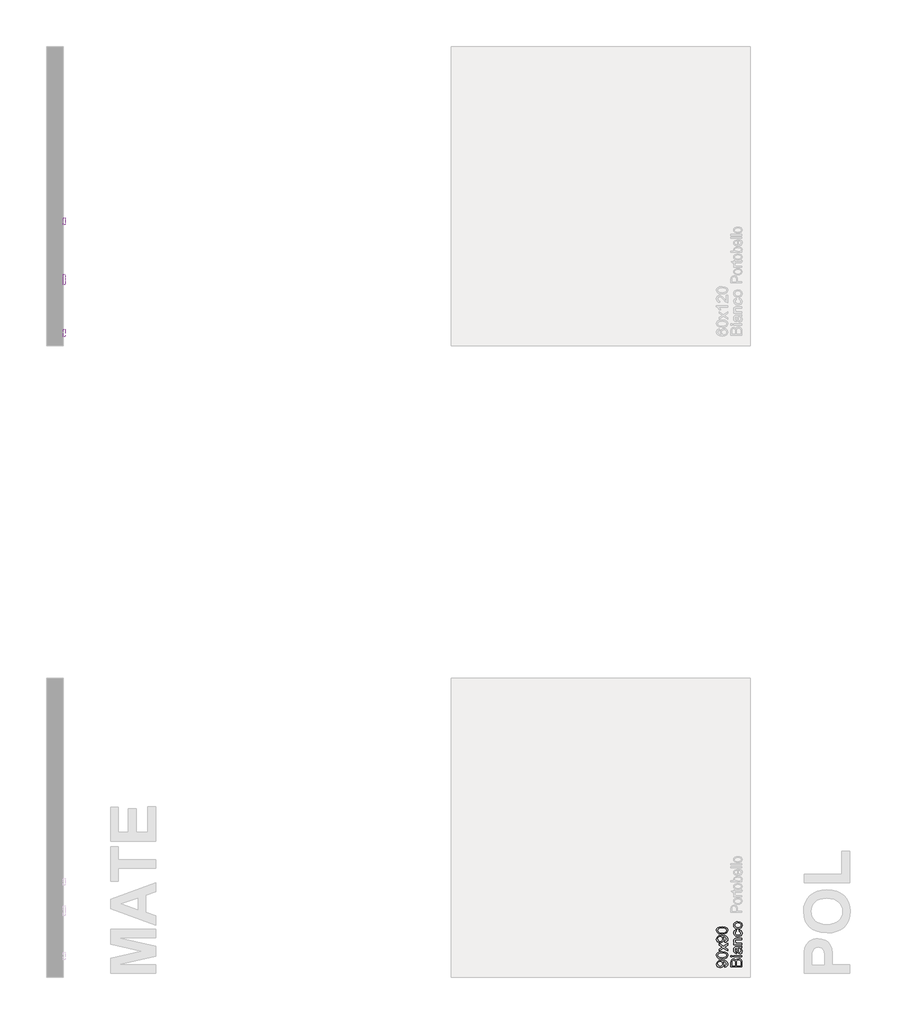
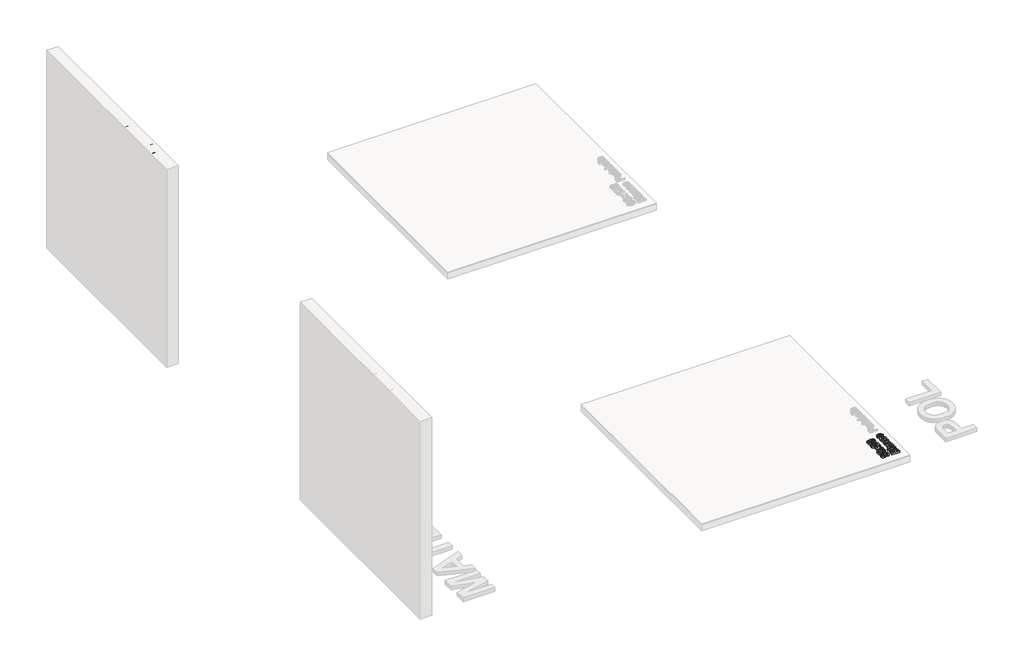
# One storey, part 7 of 14: 5 proxies.
"""IFC4 building model written with IfcOpenShell, lengths in millimetres."""

from ifc_helpers import new_model, si_unit, frame, origin, place, context, project, spatial, polyline, outline, extrude, element, save

model = new_model("IFC4")

# Units and contexts
model_context = context("Model", 3, world=origin())
ifc_project = project(units=[si_unit("LENGTHUNIT", "METRE", prefix="MILLI")], contexts=[model_context])

# Site, building, storey
site = spatial("IfcSite", under=ifc_project)
building = spatial("IfcBuilding", under=site)
storey = spatial("IfcBuildingStorey", under=building, Name="PORTOBELLO - SHOWROOM", Elevation=0.0)

# Proxies
placement = place(None, origin())
element("IfcBuildingElementProxy", 1, Name="10mm Arial", ObjectType="10mm Arial", at=placement, inside=storey, context=model_context, shape_type="SweptSolid", body=[
    extrude(outline(polyline([(-10552.2181326, 5529.8621307), (-10652.6744428, 5529.8621307), (-10652.6744428, 5568.1954346), (-10649.7191241, 5586.9696791), (-10640.6324388, 5598.0551899), (-10627.7810945, 5602.0651036), (-10616.0456588, 5598.692852), (-10607.1551773, 5588.5025207), (-10597.7864491, 5600.8756185), (-10582.1637271, 5605.2043633), (-10568.6624578, 5602.2490446), (-10559.048475, 5594.9281929), (-10553.947178, 5584.0020977), (-10552.2181326, 5567.901129), (-10552.2181326, 5529.8621307)]), holes=[polyline([(-10611.8640668, 5542.4191695), (-10611.8640668, 5565.3504805), (-10612.9431873, 5578.7413851), (-10617.5907632, 5586.7980008), (-10625.7700062, 5589.5080648), (-10633.961512, 5586.9819418), (-10638.8052916, 5579.7469292), (-10640.117404, 5563.6091724), (-10640.117404, 5542.4191695), (-10611.8640668, 5542.4191695)]), polyline([(-10564.7751714, 5542.4191695), (-10564.7751714, 5568.1709091), (-10565.2656807, 5577.4905863), (-10568.0002702, 5585.3755238), (-10573.5798138, 5590.5994481), (-10582.0410997, 5592.6473245), (-10591.8022353, 5590.2438288), (-10597.6270336, 5582.4569933), (-10599.307028, 5566.9446358), (-10599.307028, 5542.4191695), (-10564.7751714, 5542.4191695)])]), frame((0.0, 0.0, 18.0), z_axis=(0.0, 0.0, 1.0), x_axis=(1.0, 0.0, 0.0)), (0.0, 0.0, 1.0), 20.0),
    extrude(outline(polyline([(-10640.117404, 5620.9006618), (-10652.6744428, 5620.9006618), (-10652.6744428, 5633.4577005), (-10640.117404, 5633.4577005), (-10640.117404, 5620.9006618)])), frame((0.0, 0.0, 18.0), z_axis=(0.0, 0.0, 1.0), x_axis=(1.0, 0.0, 0.0)), (0.0, 0.0, 1.0), 20.0),
    extrude(outline(polyline([(-10552.2181326, 5620.9006618), (-10625.9907354, 5620.9006618), (-10625.9907354, 5633.4577005), (-10552.2181326, 5633.4577005), (-10552.2181326, 5620.9006618)])), frame((0.0, 0.0, 18.0), z_axis=(0.0, 0.0, 1.0), x_axis=(1.0, 0.0, 0.0)), (0.0, 0.0, 1.0), 20.0),
    extrude(outline(polyline([(-10561.6359117, 5699.3821541), (-10553.1255749, 5687.20526), (-10550.6485028, 5673.7530417), (-10552.1384249, 5663.2592078), (-10556.6081911, 5655.5183575), (-10563.3956139, 5650.7450886), (-10571.8385057, 5649.153999), (-10581.7713196, 5651.5574947), (-10588.9818067, 5657.8728023), (-10593.102085, 5666.665182), (-10594.990546, 5677.5299636), (-10599.307028, 5699.3085777), (-10602.1029312, 5699.3821541), (-10611.3735575, 5695.9240633), (-10615.0033265, 5682.0426494), (-10612.5875681, 5669.3384578), (-10604.0159176, 5663.2806676), (-10605.5855474, 5650.7236288), (-10617.8482806, 5656.1560196), (-10625.0342422, 5667.0943776), (-10627.5603653, 5683.6613301), (-10625.3285478, 5698.879382), (-10619.7244788, 5707.475558), (-10611.2018792, 5711.3260562), (-10600.2144703, 5711.9391928), (-10584.5917482, 5711.9391928), (-10562.7763459, 5712.576855), (-10552.2181326, 5715.0784525), (-10552.2181326, 5702.5214138), (-10561.6359117, 5699.3821541)]), holes=[polyline([(-10586.7499893, 5699.3821541), (-10582.899491, 5679.1241189), (-10580.8638773, 5668.3206509), (-10577.5529394, 5663.4278204), (-10572.7214225, 5661.7110378), (-10565.9278683, 5665.4511714), (-10563.2055416, 5676.4263176), (-10566.2099112, 5689.1305091), (-10573.481712, 5697.3220149), (-10583.1937966, 5699.3085777), (-10586.7499893, 5699.3821541)])]), frame((0.0, 0.0, 18.0), z_axis=(0.0, 0.0, 1.0), x_axis=(1.0, 0.0, 0.0)), (0.0, 0.0, 1.0), 20.0),
    extrude(outline(polyline([(-10552.2181326, 5729.2051211), (-10625.9907354, 5729.2051211), (-10625.9907354, 5741.7621599), (-10615.6900395, 5741.7621599), (-10624.5927838, 5751.36388), (-10627.5603653, 5764.4727418), (-10625.1691323, 5776.3308047), (-10618.8906129, 5784.4242086), (-10609.6567748, 5788.1888677), (-10597.516669, 5788.8510553), (-10552.2181326, 5788.8510553), (-10552.2181326, 5776.2940165), (-10595.8244118, 5776.2940165), (-10606.9344481, 5774.847014), (-10612.8082973, 5769.7334543), (-10615.0033265, 5761.1127529), (-10610.0737078, 5747.4888563), (-10602.9306657, 5743.193834), (-10591.3607769, 5741.7621599), (-10552.2181326, 5741.7621599), (-10552.2181326, 5729.2051211)])), frame((0.0, 0.0, 18.0), z_axis=(0.0, 0.0, 1.0), x_axis=(1.0, 0.0, 0.0)), (0.0, 0.0, 1.0), 20.0),
    extrude(outline(polyline([(-10578.90184, 5853.205879), (-10577.3322102, 5865.7629178), (-10566.1639259, 5862.2619074), (-10557.7240998, 5855.6829511), (-10552.4174021, 5846.6453167), (-10550.6485028, 5835.7682724), (-10553.1163779, 5822.4110903), (-10560.520003, 5811.9663073), (-10572.5344158, 5805.2248698), (-10588.8346539, 5802.9777239), (-10609.693563, 5806.8159594), (-10623.0967304, 5818.5146068), (-10627.5603653, 5835.5965942), (-10626.0275236, 5846.206924), (-10621.4289987, 5854.6896697), (-10614.0100451, 5860.775051), (-10604.0159176, 5864.1932879), (-10602.4462877, 5851.6362491), (-10611.8518041, 5845.8114509), (-10615.0033265, 5835.694696), (-10613.4520907, 5827.5798323), (-10608.7983835, 5821.1388317), (-10600.7908187, 5816.9357799), (-10589.1780104, 5815.5347627), (-10577.4088523, 5816.9051231), (-10569.3736964, 5821.0162044), (-10564.7475803, 5827.340709), (-10563.2055416, 5835.3513395), (-10567.0560398, 5847.184877), (-10578.90184, 5853.205879)])), frame((0.0, 0.0, 18.0), z_axis=(0.0, 0.0, 1.0), x_axis=(1.0, 0.0, 0.0)), (0.0, 0.0, 1.0), 20.0),
    extrude(outline(polyline([(-10589.104434, 5873.611067), (-10606.8915285, 5876.3272624), (-10619.393385, 5884.4758486), (-10625.5186202, 5894.5435525), (-10627.5603653, 5906.5978192), (-10625.0740961, 5919.7894544), (-10617.6152887, 5930.3262079), (-10605.7725541, 5937.2331924), (-10590.1345036, 5939.5355205), (-10567.7918038, 5935.4642931), (-10555.1489259, 5923.6062301), (-10550.6485028, 5906.5978192), (-10553.1255749, 5893.2467685), (-10560.5567912, 5882.7222777), (-10572.6478461, 5875.8888697), (-10589.104434, 5873.611067)]), holes=[polyline([(-10589.1289595, 5886.1681058), (-10577.7644715, 5887.6212396), (-10569.668002, 5891.9806413), (-10564.8211567, 5898.5412035), (-10563.2055416, 5906.5978192), (-10564.8303537, 5914.6176467), (-10569.7047902, 5921.1659462), (-10577.9085586, 5925.5253479), (-10589.521367, 5926.9784818), (-10600.5547611, 5925.5161508), (-10608.5408661, 5921.129158), (-10613.3877114, 5914.5716615), (-10615.0033265, 5906.5978192), (-10613.3938428, 5898.5412035), (-10608.5653916, 5891.9806413), (-10600.4873161, 5887.6212396), (-10589.1289595, 5886.1681058)])]), frame((0.0, 0.0, 18.0), z_axis=(0.0, 0.0, 1.0), x_axis=(1.0, 0.0, 0.0)), (0.0, 0.0, 1.0), 20.0),
])
element("IfcBuildingElementProxy", 2, Name="10mm Arial", ObjectType="10mm Arial", at=placement, inside=storey, context=model_context, shape_type="SweptSolid", body=[
    extrude(outline(polyline([(-10707.3322102, 5526.722871), (-10708.90184, 5539.2799098), (-10696.9211497, 5544.920767), (-10693.2055416, 5555.6138704), (-10695.5967745, 5565.7796762), (-10701.9856585, 5572.6713322), (-10712.899491, 5576.7793478), (-10727.4676181, 5578.5942323), (-10729.9201647, 5578.5206559), (-10720.4042837, 5568.4774775), (-10716.7499893, 5554.7064281), (-10718.9818067, 5543.256101), (-10725.677259, 5533.7248916), (-10736.0208744, 5527.2961538), (-10749.1971812, 5525.1532412), (-10762.8088151, 5527.400387), (-10773.4773929, 5534.1418246), (-10780.3751803, 5544.2677765), (-10782.6744428, 5556.6684654), (-10777.425993, 5574.5597931), (-10762.4654585, 5586.8715772), (-10734.3592741, 5591.0776947), (-10703.8618567, 5586.8838399), (-10693.8707948, 5581.6691127), (-10686.5836657, 5574.4126403), (-10682.1322935, 5565.4271226), (-10680.6485028, 5555.0252592), (-10682.399008, 5544.2892363), (-10687.6505234, 5535.7237172), (-10696.0719555, 5529.733372), (-10707.3322102, 5526.722871)]), holes=[polyline([(-10749.4914868, 5578.5206559), (-10758.0018237, 5577.1656239), (-10764.5501232, 5573.1005279), (-10768.7255838, 5566.7913516), (-10770.117404, 5558.7040791), (-10768.6182849, 5550.3163696), (-10764.1209275, 5543.5963918), (-10757.2384685, 5539.1818079), (-10748.5840446, 5537.7102799), (-10740.8248002, 5539.1021001), (-10734.6658424, 5543.2775608), (-10730.6467316, 5549.8319917), (-10729.307028, 5558.3607226), (-10734.6658424, 5572.8430105), (-10741.0516607, 5577.1012446), (-10749.4914868, 5578.5206559)])]), frame((0.0, 0.0, 18.0), z_axis=(0.0, 0.0, 1.0), x_axis=(1.0, 0.0, 0.0)), (0.0, 0.0, 1.0), 20.0),
    extrude(outline(polyline([(-10731.6369473, 5602.0651036), (-10760.5402094, 5605.7561863), (-10777.2052638, 5616.7190698), (-10782.6744428, 5635.0273304), (-10779.4370812, 5649.6935593), (-10770.1051413, 5659.8225769), (-10755.2427087, 5665.7086888), (-10731.6369473, 5667.9895571), (-10702.8563126, 5664.3352627), (-10686.15447, 5653.4091674), (-10682.0249946, 5645.1778078), (-10680.6485028, 5635.0273304), (-10683.0397358, 5621.9797823), (-10690.2134347, 5612.0714939), (-10707.2034515, 5604.5667012), (-10731.6369473, 5602.0651036)]), holes=[polyline([(-10731.6614728, 5614.6221424), (-10711.9092753, 5616.0936704), (-10700.4773423, 5620.5082543), (-10695.0234918, 5627.0810793), (-10693.2055416, 5635.0273304), (-10695.0296231, 5642.9735815), (-10700.5018678, 5649.5464065), (-10711.9399322, 5653.9609904), (-10731.6614728, 5655.4325184), (-10750.9691462, 5654.0100413), (-10762.489984, 5649.7426102), (-10768.210549, 5643.1820479), (-10770.117404, 5634.8801776), (-10768.4374096, 5627.0197656), (-10763.3974263, 5620.704458), (-10751.1592185, 5616.1427213), (-10731.6614728, 5614.6221424)])]), frame((0.0, 0.0, 18.0), z_axis=(0.0, 0.0, 1.0), x_axis=(1.0, 0.0, 0.0)), (0.0, 0.0, 1.0), 20.0),
    extrude(outline(polyline([(-10682.2181326, 5674.2680765), (-10719.3251632, 5701.0989367), (-10755.9907354, 5675.8377064), (-10755.9907354, 5690.8963427), (-10738.3078742, 5703.0854995), (-10729.9937411, 5708.7999331), (-10736.8118207, 5713.7540773), (-10755.9907354, 5727.6354913), (-10755.9907354, 5742.7431786), (-10719.3006378, 5716.206624), (-10682.2181326, 5741.7621599), (-10682.2181326, 5726.6789981), (-10704.536307, 5711.2770052), (-10708.6320599, 5708.4811021), (-10682.2181326, 5689.3757638), (-10682.2181326, 5674.2680765)])), frame((0.0, 0.0, 18.0), z_axis=(0.0, 0.0, 1.0), x_axis=(1.0, 0.0, 0.0)), (0.0, 0.0, 1.0), 20.0),
    extrude(outline(polyline([(-10707.3322102, 5751.179939), (-10708.90184, 5763.7369778), (-10696.9211497, 5769.377835), (-10693.2055416, 5780.0709383), (-10695.5967745, 5790.2367441), (-10701.9856585, 5797.1284002), (-10712.899491, 5801.2364158), (-10727.4676181, 5803.0513003), (-10729.9201647, 5802.9777239), (-10720.4042837, 5792.9345454), (-10716.7499893, 5779.1634961), (-10718.9818067, 5767.713169), (-10725.677259, 5758.1819596), (-10736.0208744, 5751.7532218), (-10749.1971812, 5749.6103091), (-10762.8088151, 5751.857455), (-10773.4773929, 5758.5988926), (-10780.3751803, 5768.7248445), (-10782.6744428, 5781.1255334), (-10777.425993, 5799.0168611), (-10762.4654585, 5811.3286452), (-10734.3592741, 5815.5347627), (-10703.8618567, 5811.3409079), (-10693.8707948, 5806.1261807), (-10686.5836657, 5798.8697083), (-10682.1322935, 5789.8841906), (-10680.6485028, 5779.4823272), (-10682.399008, 5768.7463043), (-10687.6505234, 5760.1807851), (-10696.0719555, 5754.19044), (-10707.3322102, 5751.179939)]), holes=[polyline([(-10749.4914868, 5802.9777239), (-10758.0018237, 5801.6226919), (-10764.5501232, 5797.5575959), (-10768.7255838, 5791.2484196), (-10770.117404, 5783.1611471), (-10768.6182849, 5774.7734376), (-10764.1209275, 5768.0534598), (-10757.2384685, 5763.6388759), (-10748.5840446, 5762.1673479), (-10740.8248002, 5763.5591681), (-10734.6658424, 5767.7346288), (-10730.6467316, 5774.2890597), (-10729.307028, 5782.8177906), (-10734.6658424, 5797.3000785), (-10741.0516607, 5801.5583125), (-10749.4914868, 5802.9777239)])]), frame((0.0, 0.0, 18.0), z_axis=(0.0, 0.0, 1.0), x_axis=(1.0, 0.0, 0.0)), (0.0, 0.0, 1.0), 20.0),
    extrude(outline(polyline([(-10731.6369473, 5826.5221716), (-10760.5402094, 5830.2132543), (-10777.2052638, 5841.1761377), (-10782.6744428, 5859.4843984), (-10779.4370812, 5874.1506272), (-10770.1051413, 5884.2796448), (-10755.2427087, 5890.1657568), (-10731.6369473, 5892.4466251), (-10702.8563126, 5888.7923307), (-10686.15447, 5877.8662354), (-10682.0249946, 5869.6348758), (-10680.6485028, 5859.4843984), (-10683.0397358, 5846.4368503), (-10690.2134347, 5836.5285619), (-10707.2034515, 5829.0237692), (-10731.6369473, 5826.5221716)]), holes=[polyline([(-10731.6614728, 5839.0792104), (-10711.9092753, 5840.5507384), (-10700.4773423, 5844.9653223), (-10695.0234918, 5851.5381473), (-10693.2055416, 5859.4843984), (-10695.0296231, 5867.4306495), (-10700.5018678, 5874.0034744), (-10711.9399322, 5878.4180584), (-10731.6614728, 5879.8895864), (-10750.9691462, 5878.4671093), (-10762.489984, 5874.1996782), (-10768.210549, 5867.6391159), (-10770.117404, 5859.3372456), (-10768.4374096, 5851.4768336), (-10763.3974263, 5845.161526), (-10751.1592185, 5840.5997893), (-10731.6614728, 5839.0792104)])]), frame((0.0, 0.0, 18.0), z_axis=(0.0, 0.0, 1.0), x_axis=(1.0, 0.0, 0.0)), (0.0, 0.0, 1.0), 20.0),
])
element("IfcBuildingElementProxy", 3, Name="10mm Arial", ObjectType="10mm Arial", at=placement, inside=storey, context=model_context, shape_type="SweptSolid", body=[
    extrude(outline(polyline([(11225.014652, 2518.4745677), (11225.014652, 2618.9308778), (11263.3479558, 2618.9308778), (11282.1222003, 2615.9755591), (11293.2077111, 2606.8888738), (11297.2176249, 2594.0375295), (11293.8453733, 2582.3020938), (11283.655042, 2573.4116123), (11296.0281398, 2564.0428841), (11300.3568846, 2548.4201621), (11297.4015659, 2534.9188928), (11290.0807142, 2525.30491), (11279.1546189, 2520.203613), (11263.0536503, 2518.4745677), (11225.014652, 2518.4745677)]), holes=[polyline([(11237.5716907, 2578.1205018), (11260.5030018, 2578.1205018), (11273.8939064, 2579.1996223), (11281.9505221, 2583.8471982), (11284.6605861, 2592.0264412), (11282.1344631, 2600.217947), (11274.8994505, 2605.0617266), (11258.7616936, 2606.373839), (11237.5716907, 2606.373839), (11237.5716907, 2578.1205018)]), polyline([(11237.5716907, 2531.0316064), (11263.3234304, 2531.0316064), (11272.6431076, 2531.5221158), (11280.528045, 2534.2567053), (11285.7519694, 2539.8362488), (11287.7998458, 2548.2975347), (11285.3963501, 2558.0586703), (11277.6095145, 2563.8834686), (11262.0971571, 2565.563463), (11237.5716907, 2565.563463), (11237.5716907, 2531.0316064)])]), frame((-16677.6869751, 0.0, 0.0), z_axis=(1.0, 0.0, 0.0), x_axis=(0.0, 1.0, 0.0)), (0.0, 0.0, 1.0), 20.0),
    extrude(outline(polyline([(-16657.6869751, 11328.6102218), (-16657.6869751, 11316.053183), (-16677.6869751, 11316.053183), (-16677.6869751, 11328.6102218), (-16657.6869751, 11328.6102218)])), frame((0.0, 0.0, 2606.373839), z_axis=(0.0, 0.0, 1.0), x_axis=(1.0, 0.0, 0.0)), (0.0, 0.0, 1.0), 12.5570388),
    extrude(outline(polyline([(-16657.6869751, 11328.6102218), (-16657.6869751, 11316.053183), (-16677.6869751, 11316.053183), (-16677.6869751, 11328.6102218), (-16657.6869751, 11328.6102218)])), frame((0.0, 0.0, 2518.4745677), z_axis=(0.0, 0.0, 1.0), x_axis=(1.0, 0.0, 0.0)), (0.0, 0.0, 1.0), 73.7726028),
    extrude(outline(polyline([(11394.5346753, 2527.8923467), (11382.3577813, 2519.3820099), (11368.905563, 2516.9049378), (11358.4117291, 2518.3948599), (11350.6708788, 2522.8646261), (11345.8976099, 2529.6520489), (11344.3065203, 2538.0949407), (11346.710016, 2548.0277546), (11353.0253235, 2555.2382417), (11361.8177032, 2559.3585201), (11372.6824848, 2561.246981), (11394.4610989, 2565.563463), (11394.5346753, 2568.3593662), (11391.0765846, 2577.6299925), (11377.1951706, 2581.2597615), (11364.4909791, 2578.8440031), (11358.4331889, 2570.2723526), (11345.8761501, 2571.8419824), (11351.3085409, 2584.1047156), (11362.2468989, 2591.2906772), (11378.8138514, 2593.8168003), (11394.0319033, 2591.5849828), (11402.6280792, 2585.9809138), (11406.4785774, 2577.4583142), (11407.0917141, 2566.4709053), (11407.0917141, 2550.8481832), (11407.7293762, 2529.0327809), (11410.2309738, 2518.4745677), (11397.673935, 2518.4745677), (11394.5346753, 2527.8923467)]), holes=[polyline([(11394.5346753, 2553.0064243), (11374.2766401, 2549.1559261), (11363.4731722, 2547.1203124), (11358.5803417, 2543.8093744), (11356.863559, 2538.9778575), (11360.6036926, 2532.1843033), (11371.5788388, 2529.4619766), (11384.2830304, 2532.4663462), (11392.4745362, 2539.738147), (11394.4610989, 2549.4502317), (11394.5346753, 2553.0064243)])]), frame((-16677.6869751, 0.0, 0.0), z_axis=(1.0, 0.0, 0.0), x_axis=(0.0, 1.0, 0.0)), (0.0, 0.0, 1.0), 20.0),
    extrude(outline(polyline([(11424.3576424, 2518.4745677), (11424.3576424, 2592.2471704), (11436.9146812, 2592.2471704), (11436.9146812, 2581.9464746), (11446.5164012, 2590.8492188), (11459.625263, 2593.8168003), (11471.483326, 2591.4255673), (11479.5767299, 2585.1470479), (11483.341389, 2575.9132098), (11484.0035766, 2563.773104), (11484.0035766, 2518.4745677), (11471.4465378, 2518.4745677), (11471.4465378, 2562.0808468), (11469.9995353, 2573.1908831), (11464.8859755, 2579.0647323), (11456.2652741, 2581.2597615), (11442.6413776, 2576.3301428), (11438.3463553, 2569.1871007), (11436.9146812, 2557.6172119), (11436.9146812, 2518.4745677), (11424.3576424, 2518.4745677)])), frame((-16677.6869751, 0.0, 0.0), z_axis=(1.0, 0.0, 0.0), x_axis=(0.0, 1.0, 0.0)), (0.0, 0.0, 1.0), 20.0),
    extrude(outline(polyline([(11548.3584002, 2545.158275), (11560.915439, 2543.5886452), (11557.4144287, 2532.420361), (11550.8354723, 2523.9805349), (11541.797838, 2518.6738371), (11530.9207937, 2516.9049378), (11517.5636116, 2519.3728129), (11507.1188286, 2526.776438), (11500.377391, 2538.7908508), (11498.1302452, 2555.0910889), (11501.9684807, 2575.949998), (11513.6671281, 2589.3531654), (11530.7491154, 2593.8168003), (11541.3594453, 2592.2839586), (11549.842191, 2587.6854337), (11555.9275723, 2580.2664801), (11559.3458092, 2570.2723526), (11546.7887704, 2568.7027227), (11540.9639721, 2578.1082391), (11530.8472173, 2581.2597615), (11522.7323536, 2579.7085258), (11516.291353, 2575.0548185), (11512.0883012, 2567.0472538), (11510.6872839, 2555.4344454), (11512.0576444, 2543.6652873), (11516.1687257, 2535.6301314), (11522.4932303, 2531.0040153), (11530.5038607, 2529.4619766), (11542.3373983, 2533.3124748), (11548.3584002, 2545.158275)])), frame((-16677.6869751, 0.0, 0.0), z_axis=(1.0, 0.0, 0.0), x_axis=(0.0, 1.0, 0.0)), (0.0, 0.0, 1.0), 20.0),
    extrude(outline(polyline([(11568.7635882, 2555.360869), (11571.4797836, 2573.1479635), (11579.6283698, 2585.64982), (11589.6960738, 2591.7750552), (11601.7503405, 2593.8168003), (11614.9419757, 2591.3305311), (11625.4787292, 2583.8717237), (11632.3857136, 2572.0289891), (11634.6880418, 2556.3909386), (11630.6168144, 2534.0482388), (11618.7587514, 2521.4053609), (11601.7503405, 2516.9049378), (11588.3992897, 2519.3820099), (11577.874799, 2526.8132262), (11571.0413909, 2538.9042811), (11568.7635882, 2555.360869)]), holes=[polyline([(11581.320627, 2555.3853945), (11582.7737609, 2544.0209065), (11587.1331625, 2535.924437), (11593.6937248, 2531.0775917), (11601.7503405, 2529.4619766), (11609.770168, 2531.0867887), (11616.3184675, 2535.9612252), (11620.6778691, 2544.1649937), (11622.131003, 2555.777802), (11620.6686721, 2566.8111961), (11616.2816793, 2574.7973011), (11609.7241827, 2579.6441464), (11601.7503405, 2581.2597615), (11593.6937248, 2579.6502778), (11587.1331625, 2574.8218266), (11582.7737609, 2566.7437511), (11581.320627, 2555.3853945)])]), frame((-16677.6869751, 0.0, 0.0), z_axis=(1.0, 0.0, 0.0), x_axis=(0.0, 1.0, 0.0)), (0.0, 0.0, 1.0), 20.0),
    extrude(outline(polyline([(11765.0899463, 2530.5165716), (11780.6636175, 2520.0441975), (11777.2791031, 2510.8471476), (11756.604135, 2522.594846), (11732.201296, 2516.9049378), (11719.356083, 2518.5450784), (11707.749406, 2523.4655001), (11698.0281243, 2531.3565689), (11690.839097, 2541.9086508), (11686.3969219, 2554.5423316), (11684.9161969, 2568.6781973), (11690.8268342, 2595.6439475), (11697.9882704, 2606.3462479), (11707.6513042, 2614.1484119), (11719.2150615, 2618.9124837), (11732.0786686, 2620.5005077), (11745.0434433, 2618.8756955), (11756.6654486, 2614.0012591), (11766.313154, 2606.2021608), (11773.3550285, 2595.803363), (11779.0939876, 2569.4139613), (11775.6113714, 2547.4636689), (11765.0899463, 2530.5165716)]), holes=[polyline([(11735.6593867, 2547.2184142), (11754.7401995, 2537.6780078), (11763.5877615, 2550.627454), (11766.5369489, 2568.7762991), (11762.3676196, 2589.3899536), (11750.1662001, 2603.0751638), (11732.152245, 2607.9434689), (11718.4670348, 2605.4817252), (11707.3324731, 2598.0964942), (11699.938045, 2585.8245639), (11697.4732356, 2568.7027227), (11699.9104538, 2551.9487635), (11707.2221085, 2539.6032569), (11718.3229477, 2531.9972967), (11732.1277196, 2529.4619766), (11745.6412515, 2532.0371506), (11732.4220252, 2537.6044314), (11735.6593867, 2547.2184142)])]), frame((-16677.6869751, 0.0, 0.0), z_axis=(1.0, 0.0, 0.0), x_axis=(0.0, 1.0, 0.0)), (0.0, 0.0, 1.0), 20.0),
    extrude(outline(polyline([(11843.4488113, 2518.4745677), (11843.4488113, 2531.1542338), (11833.6140993, 2520.4672618), (11820.7872804, 2516.9049378), (11808.9782684, 2519.4065354), (11800.8358135, 2525.6850548), (11797.0956799, 2534.9311556), (11796.3599159, 2546.6052776), (11796.3599159, 2592.2471704), (11808.9169547, 2592.2471704), (11808.9169547, 2552.515915), (11809.6772442, 2539.7136215), (11814.6436511, 2532.1965661), (11824.0001165, 2529.4619766), (11834.4847534, 2532.2578797), (11841.4131976, 2539.873037), (11843.4488113, 2553.8648156), (11843.4488113, 2592.2471704), (11856.0058501, 2592.2471704), (11856.0058501, 2518.4745677), (11843.4488113, 2518.4745677)])), frame((-16677.6869751, 0.0, 0.0), z_axis=(1.0, 0.0, 0.0), x_axis=(0.0, 1.0, 0.0)), (0.0, 0.0, 1.0), 20.0),
    extrude(outline(polyline([(11924.9224105, 2540.4493855), (11937.2341946, 2538.8797557), (11932.7981509, 2529.602998), (11925.7194882, 2522.6684224), (11916.157622, 2518.345809), (11904.2719678, 2516.9049378), (11889.5382939, 2519.391207), (11878.2013971, 2526.8500144), (11870.9725159, 2538.7969822), (11868.5628888, 2554.7477324), (11870.9970414, 2571.2349771), (11878.299499, 2583.5651553), (11889.4831116, 2591.253889), (11903.5607293, 2593.8168003), (11917.1999543, 2591.2600204), (11928.0984584, 2583.5896808), (11935.2445662, 2571.2840281), (11937.6266021, 2554.8213088), (11937.5530257, 2551.4367944), (11881.1199276, 2551.4367944), (11883.2934971, 2542.0374095), (11888.3426775, 2535.1273593), (11895.6298066, 2530.8783223), (11904.5172225, 2529.4619766), (11916.8290066, 2532.0862015), (11924.9224105, 2540.4493855)]), holes=[polyline([(11881.1199276, 2563.9938332), (11925.0695633, 2563.9938332), (11920.0418427, 2575.3736496), (11912.720991, 2579.7882335), (11903.5116784, 2581.2597615), (11888.0483719, 2576.5631347), (11883.1831325, 2571.0724959), (11881.1199276, 2563.9938332)])]), frame((-16677.6869751, 0.0, 0.0), z_axis=(1.0, 0.0, 0.0), x_axis=(0.0, 1.0, 0.0)), (0.0, 0.0, 1.0), 20.0),
    extrude(outline(polyline([(11947.0443812, 2555.360869), (11949.7605766, 2573.1479635), (11957.9091627, 2585.64982), (11967.9768667, 2591.7750552), (11980.0311334, 2593.8168003), (11993.2227686, 2591.3305311), (12003.7595221, 2583.8717237), (12010.6665065, 2572.0289891), (12012.9688347, 2556.3909386), (12008.8976073, 2534.0482388), (11997.0395443, 2521.4053609), (11980.0311334, 2516.9049378), (11966.6800826, 2519.3820099), (11956.1555919, 2526.8132262), (11949.3221838, 2538.9042811), (11947.0443812, 2555.360869)]), holes=[polyline([(11959.6014199, 2555.3853945), (11961.0545538, 2544.0209065), (11965.4139554, 2535.924437), (11971.9745177, 2531.0775917), (11980.0311334, 2529.4619766), (11988.0509609, 2531.0867887), (11994.5992604, 2535.9612252), (11998.958662, 2544.1649937), (12000.4117959, 2555.777802), (11998.949465, 2566.8111961), (11994.5624722, 2574.7973011), (11988.0049756, 2579.6441464), (11980.0311334, 2581.2597615), (11971.9745177, 2579.6502778), (11965.4139554, 2574.8218266), (11961.0545538, 2566.7437511), (11959.6014199, 2555.3853945)])]), frame((-16677.6869751, 0.0, 0.0), z_axis=(1.0, 0.0, 0.0), x_axis=(0.0, 1.0, 0.0)), (0.0, 0.0, 1.0), 20.0),
    extrude(outline(polyline([(12027.0955033, 2490.2212304), (12027.0955033, 2592.2471704), (12039.6525421, 2592.2471704), (12039.6525421, 2579.9353863), (12048.3345572, 2590.3464468), (12060.0577301, 2593.8168003), (12075.9747577, 2588.9607579), (12086.3735555, 2575.2755477), (12089.8806971, 2555.9249548), (12085.9198343, 2535.5810804), (12074.4173906, 2521.724192), (12058.5371512, 2516.9049378), (12047.6110559, 2520.1300366), (12039.6525421, 2528.2847542), (12039.6525421, 2490.2212304), (12027.0955033, 2490.2212304)]), holes=[polyline([(12039.6525421, 2554.7722579), (12041.0106398, 2543.5150688), (12045.0849329, 2535.6423941), (12051.0967378, 2531.007081), (12058.267371, 2529.4619766), (12065.5545002, 2531.0622633), (12071.7195893, 2535.8631233), (12075.9226411, 2544.0239722), (12077.3236584, 2555.7042256), (12075.9563636, 2566.900101), (12071.8544794, 2574.8831403), (12065.8518715, 2579.6656062), (12058.7824058, 2581.2597615), (12051.685349, 2579.5644386), (12045.4528149, 2574.4784701), (12041.1026103, 2566.1612713), (12039.6525421, 2554.7722579)])]), frame((-16677.6869751, 0.0, 0.0), z_axis=(1.0, 0.0, 0.0), x_axis=(0.0, 1.0, 0.0)), (0.0, 0.0, 1.0), 20.0),
    extrude(outline(polyline([(12099.2984762, 2540.4493855), (12111.855515, 2542.0190154), (12117.6680505, 2532.6993381), (12130.9853787, 2529.4619766), (12143.7876722, 2532.429558), (12147.9570015, 2539.3947905), (12143.7631467, 2545.0356477), (12130.8382259, 2548.6163658), (12111.9290914, 2554.7599951), (12103.676272, 2561.933694), (12100.8681061, 2572.0627116), (12103.124449, 2581.419177), (12109.280341, 2588.5683505), (12117.2633803, 2592.2839586), (12128.0668482, 2593.8168003), (12143.3462138, 2591.3519909), (12153.0582985, 2584.6810641), (12157.3747805, 2573.4116123), (12144.8177418, 2571.8419824), (12140.0965895, 2578.7704267), (12129.0478669, 2581.2597615), (12117.0303884, 2578.8807913), (12113.4251448, 2573.3380359), (12114.9211983, 2569.6837414), (12119.6055624, 2566.9123637), (12130.421293, 2564.2390879), (12148.852181, 2558.3284505), (12157.4115687, 2551.6329982), (12160.5140402, 2540.7191656), (12156.8720085, 2528.7016871), (12146.3628461, 2519.9828838), (12130.8137005, 2516.9049378), (12118.1524285, 2518.3887285), (12108.912459, 2522.8401007), (12102.7443042, 2530.2100033), (12099.2984762, 2540.4493855)])), frame((-16677.6869751, 0.0, 0.0), z_axis=(1.0, 0.0, 0.0), x_axis=(0.0, 1.0, 0.0)), (0.0, 0.0, 1.0), 20.0),
])
element("IfcBuildingElementProxy", 4, Name="10mm Arial", ObjectType="10mm Arial", at=placement, inside=storey, context=model_context, shape_type="SweptSolid", body=[
    extrude(outline(polyline([(11261.1161384, 2393.4745677), (11261.1161384, 2417.0190154), (11215.5968729, 2417.0190154), (11215.5968729, 2429.5760541), (11264.2553981, 2492.361248), (11273.6731772, 2492.361248), (11273.6731772, 2429.5760541), (11286.2302159, 2429.5760541), (11286.2302159, 2417.0190154), (11273.6731772, 2417.0190154), (11273.6731772, 2393.4745677), (11261.1161384, 2393.4745677)]), holes=[polyline([(11261.1161384, 2429.5760541), (11261.1161384, 2468.3753419), (11231.0479167, 2429.5760541), (11261.1161384, 2429.5760541)])]), frame((-16677.6869751, 0.0, 0.0), z_axis=(1.0, 0.0, 0.0), x_axis=(0.0, 1.0, 0.0)), (0.0, 0.0, 1.0), 20.0),
    extrude(outline(polyline([(11297.2176249, 2420.158275), (11309.7746636, 2421.7279049), (11316.102234, 2408.7907214), (11329.2233585, 2404.4619766), (11338.2242046, 2405.9672271), (11344.9687078, 2410.4829786), (11349.1809567, 2417.4880649), (11350.5850396, 2426.4613199), (11345.3243271, 2441.3728034), (11338.7177796, 2445.4746877), (11329.4195622, 2446.8419824), (11318.3953651, 2444.6592159), (11311.3442935, 2438.9938332), (11298.7872547, 2440.563463), (11309.7746636, 2492.361248), (11358.4331889, 2492.361248), (11358.4331889, 2479.8042092), (11319.9282067, 2479.8042092), (11314.5326041, 2452.1394832), (11323.5027934, 2457.5841367), (11332.9021784, 2459.3990212), (11344.6376141, 2457.1488097), (11354.3864869, 2450.3981751), (11360.9531805, 2440.1097419), (11363.1420784, 2427.2461348), (11361.1739097, 2414.6890961), (11355.2694037, 2403.9469418), (11343.9631637, 2394.9154388), (11329.1743075, 2391.9049378), (11316.8410636, 2393.839384), (11307.0155487, 2399.6427224), (11300.2802425, 2408.6405029), (11297.2176249, 2420.158275)])), frame((-16677.6869751, 0.0, 0.0), z_axis=(1.0, 0.0, 0.0), x_axis=(0.0, 1.0, 0.0)), (0.0, 0.0, 1.0), 20.0),
    extrude(outline(polyline([(11369.4205978, 2393.4745677), (11396.251458, 2430.5815982), (11370.9902276, 2467.2471704), (11386.048864, 2467.2471704), (11398.2380207, 2449.5643092), (11403.9524544, 2441.2501761), (11408.9065986, 2448.0682557), (11422.7880126, 2467.2471704), (11437.8956998, 2467.2471704), (11411.3591452, 2430.5570728), (11436.9146812, 2393.4745677), (11421.8315194, 2393.4745677), (11406.4295265, 2415.792742), (11403.6336233, 2419.8884949), (11384.5282851, 2393.4745677), (11369.4205978, 2393.4745677)])), frame((-16677.6869751, 0.0, 0.0), z_axis=(1.0, 0.0, 0.0), x_axis=(0.0, 1.0, 0.0)), (0.0, 0.0, 1.0), 20.0),
    extrude(outline(polyline([(11491.8517258, 2393.4745677), (11479.294687, 2393.4745677), (11479.294687, 2471.7598562), (11467.3998358, 2463.2863076), (11454.1806095, 2456.9464746), (11454.1806095, 2468.8168003), (11472.586972, 2480.5644987), (11483.7583219, 2493.9308778), (11491.8517258, 2493.9308778), (11491.8517258, 2393.4745677)])), frame((-16677.6869751, 0.0, 0.0), z_axis=(1.0, 0.0, 0.0), x_axis=(0.0, 1.0, 0.0)), (0.0, 0.0, 1.0), 20.0),
    extrude(outline(polyline([(11586.0295166, 2406.0316064), (11586.0295166, 2393.4745677), (11520.105063, 2393.4745677), (11521.4539637, 2402.1320573), (11529.0936464, 2415.4616482), (11544.8267331, 2430.0175125), (11566.4949826, 2450.9377353), (11571.9028479, 2465.1625058), (11566.7892882, 2476.6772122), (11553.4351718, 2481.373839), (11539.5169696, 2476.7875768), (11534.2317316, 2464.1079107), (11521.6746929, 2465.6775406), (11524.7189164, 2477.8237778), (11531.3009384, 2486.6958652), (11541.0774024, 2492.1221247), (11553.7049519, 2493.9308778), (11566.4244719, 2491.9197896), (11576.1825418, 2485.8865249), (11582.3905505, 2476.873416), (11584.4598867, 2465.9227952), (11582.2280693, 2454.0156813), (11574.8091157, 2441.7038972), (11556.8196861, 2424.4992826), (11542.3741865, 2412.4204904), (11536.7088037, 2406.0316064), (11586.0295166, 2406.0316064)])), frame((-16677.6869751, 0.0, 0.0), z_axis=(1.0, 0.0, 0.0), x_axis=(0.0, 1.0, 0.0)), (0.0, 0.0, 1.0), 20.0),
    extrude(outline(polyline([(11598.5865553, 2442.8933823), (11602.277638, 2471.7966444), (11613.2405215, 2488.4616988), (11631.5487821, 2493.9308778), (11646.215011, 2490.6935163), (11656.3440286, 2481.3615763), (11662.2301405, 2466.4991437), (11664.5110089, 2442.8933823), (11660.8567144, 2414.1127476), (11649.9306191, 2397.410905), (11641.6992595, 2393.2814296), (11631.5487821, 2391.9049378), (11618.501234, 2394.2961708), (11608.5929456, 2401.4698697), (11601.0881529, 2418.4598865), (11598.5865553, 2442.8933823)]), holes=[polyline([(11611.1435941, 2442.9179078), (11612.6151221, 2423.1657104), (11617.029706, 2411.7337774), (11623.602531, 2406.2799268), (11631.5487821, 2404.4619766), (11639.4950332, 2406.2860581), (11646.0678582, 2411.7583028), (11650.4824421, 2423.1963672), (11651.9539701, 2442.9179078), (11650.531493, 2462.2255812), (11646.2640619, 2473.746419), (11639.7034996, 2479.466984), (11631.4016293, 2481.373839), (11623.5412173, 2479.6938446), (11617.2259097, 2474.6538613), (11612.664173, 2462.4156536), (11611.1435941, 2442.9179078)])]), frame((-16677.6869751, 0.0, 0.0), z_axis=(1.0, 0.0, 0.0), x_axis=(0.0, 1.0, 0.0)), (0.0, 0.0, 1.0), 20.0),
])
element("IfcBuildingElementProxy", 5, Name="10mm Arial Narrow", ObjectType="10mm Arial Narrow", at=placement, inside=storey, context=model_context, shape_type="SweptSolid", body=[
    extrude(outline(polyline([(12226.9202468, 2518.4745677), (12226.9202468, 2615.7916181), (12257.1601468, 2615.7916181), (12272.9054962, 2613.9767336), (12283.991007, 2604.8164719), (12288.1358108, 2588.3721467), (12286.4098311, 2576.7041561), (12281.231892, 2567.402873), (12271.8171786, 2561.314426), (12257.380876, 2559.2849437), (12236.3380259, 2559.2849437), (12236.3380259, 2518.4745677), (12226.9202468, 2518.4745677)]), holes=[polyline([(12236.3380259, 2570.2723526), (12258.5335729, 2570.2723526), (12273.8619894, 2574.6501483), (12278.7180317, 2587.857112), (12276.3267988, 2597.6795612), (12270.5510514, 2603.2836303), (12258.3128437, 2604.8042092), (12236.3380259, 2604.8042092), (12236.3380259, 2570.2723526)])]), frame((-16677.6869751, 0.0, 0.0), z_axis=(1.0, 0.0, 0.0), x_axis=(0.0, 1.0, 0.0)), (0.0, 0.0, 1.0), 20.0),
    extrude(outline(polyline([(12295.98396, 2553.7912392), (12297.8724209, 2569.8216971), (12303.5378037, 2581.3701261), (12312.0971914, 2588.350687), (12322.6676674, 2590.6775406), (12333.1155161, 2588.350687), (12341.6994293, 2581.3701261), (12347.4383884, 2570.0056381), (12349.3513748, 2554.5270032), (12347.4721109, 2537.9447223), (12341.8343194, 2526.2123523), (12333.2841287, 2519.2317914), (12322.6676674, 2516.9049378), (12312.1738335, 2519.2379228), (12303.5991173, 2526.2368778), (12297.8877494, 2537.7914381), (12295.98396, 2553.7912392)]), holes=[polyline([(12305.4017391, 2553.8157647), (12306.6617349, 2541.6879216), (12310.4417224, 2533.1162711), (12316.0856454, 2528.0211054), (12322.9374475, 2526.3227169), (12329.4305648, 2528.0364339), (12334.9304006, 2533.1775847), (12338.6827969, 2541.7645636), (12339.9335957, 2553.8157647), (12338.6735999, 2565.9068196), (12334.8936124, 2574.4662073), (12329.2496894, 2579.561373), (12322.3978873, 2581.2597615), (12315.8587848, 2579.5521759), (12310.368146, 2574.4294191), (12306.6433408, 2565.8608343), (12305.4017391, 2553.8157647)])]), frame((-16677.6869751, 0.0, 0.0), z_axis=(1.0, 0.0, 0.0), x_axis=(0.0, 1.0, 0.0)), (0.0, 0.0, 1.0), 20.0),
    extrude(outline(polyline([(12418.415088, 2526.3227169), (12419.9847179, 2516.9049378), (12412.8723326, 2516.9049378), (12404.8770306, 2518.9528143), (12400.7077013, 2524.5568833), (12399.5795299, 2538.7080774), (12399.5795299, 2579.6901317), (12391.7313806, 2579.6901317), (12391.7313806, 2582.8293914), (12390.1617508, 2578.1205018), (12382.8531618, 2579.6901317), (12376.9793126, 2577.4460515), (12373.239179, 2571.1797948), (12371.3261926, 2556.2928368), (12371.3261926, 2518.4745677), (12361.9084136, 2518.4745677), (12361.9084136, 2589.1079107), (12371.3261926, 2589.1079107), (12371.3261926, 2579.7391826), (12377.3594574, 2588.5192995), (12383.5398749, 2590.6775406), (12391.7313806, 2589.1079107), (12399.5795299, 2589.1079107), (12399.5795299, 2604.8042092), (12408.997309, 2612.6523584), (12408.997309, 2589.1079107), (12418.415088, 2589.1079107), (12418.415088, 2579.6901317), (12408.997309, 2579.6901317), (12408.997309, 2536.5498364), (12409.8311748, 2528.8243145), (12414.2948097, 2526.3227169), (12418.415088, 2526.3227169)])), frame((-16677.6869751, 0.0, 0.0), z_axis=(1.0, 0.0, 0.0), x_axis=(0.0, 1.0, 0.0)), (0.0, 0.0, 1.0), 20.0),
    extrude(outline(polyline([(12424.6936074, 2553.7912392), (12426.5820683, 2569.8216971), (12432.247451, 2581.3701261), (12440.8068388, 2588.350687), (12451.3773148, 2590.6775406), (12461.8251635, 2588.350687), (12470.4090767, 2581.3701261), (12476.1480358, 2570.0056381), (12478.0610222, 2554.5270032), (12476.1817583, 2537.9447223), (12470.5439667, 2526.2123523), (12461.993776, 2519.2317914), (12451.3773148, 2516.9049378), (12440.8834809, 2519.2379228), (12432.3087647, 2526.2368778), (12426.5973967, 2537.7914381), (12424.6936074, 2553.7912392)]), holes=[polyline([(12434.1113865, 2553.8157647), (12435.3713823, 2541.6879216), (12439.1513698, 2533.1162711), (12444.7952928, 2528.0211054), (12451.6470949, 2526.3227169), (12458.1402121, 2528.0364339), (12463.640048, 2533.1775847), (12467.3924443, 2541.7645636), (12468.6432431, 2553.8157647), (12467.3832473, 2565.9068196), (12463.6032598, 2574.4662073), (12457.9593368, 2579.561373), (12451.1075347, 2581.2597615), (12444.5684322, 2579.5521759), (12439.0777934, 2574.4294191), (12435.3529882, 2565.8608343), (12434.1113865, 2553.8157647)])]), frame((-16677.6869751, 0.0, 0.0), z_axis=(1.0, 0.0, 0.0), x_axis=(0.0, 1.0, 0.0)), (0.0, 0.0, 1.0), 20.0),
    extrude(outline(polyline([(12500.03584, 2518.4745677), (12490.6180609, 2518.4745677), (12490.6180609, 2615.7916181), (12500.03584, 2615.7916181), (12500.03584, 2581.5785926), (12507.1850135, 2588.4211977), (12516.075495, 2590.6775406), (12528.5221692, 2586.6185759), (12537.4862271, 2574.3190545), (12540.846216, 2554.3307995), (12538.9792149, 2538.4321659), (12533.3782115, 2526.641548), (12525.2878733, 2519.3390904), (12515.9528677, 2516.9049378), (12506.9274961, 2519.4310609), (12500.03584, 2526.9358536), (12500.03584, 2518.4745677)]), holes=[polyline([(12500.03584, 2554.3307995), (12502.0469283, 2537.6657451), (12507.7368365, 2529.2289847), (12515.9038167, 2526.3227169), (12521.6458416, 2528.0517623), (12526.7072847, 2533.2388984), (12531.4284369, 2553.938392), (12526.8789629, 2574.6501483), (12521.8113885, 2579.6073582), (12515.707613, 2581.2597615), (12509.9318657, 2579.5307161), (12504.818306, 2574.34358), (12500.03584, 2554.3307995)])]), frame((-16677.6869751, 0.0, 0.0), z_axis=(1.0, 0.0, 0.0), x_axis=(0.0, 1.0, 0.0)), (0.0, 0.0, 1.0), 20.0),
    extrude(outline(polyline([(12591.0743711, 2540.4493855), (12600.4921502, 2538.8797557), (12591.2951003, 2522.4476932), (12574.8139869, 2516.9049378), (12563.6119802, 2519.2379228), (12554.7766809, 2526.2368778), (12549.0377218, 2537.6442853), (12547.1247354, 2553.202628), (12549.0469188, 2569.3066623), (12554.8134691, 2581.0758205), (12563.5230753, 2588.2771106), (12574.2744267, 2590.6775406), (12584.5965823, 2588.359884), (12593.0486711, 2581.4069143), (12598.6864627, 2570.0638861), (12600.5657266, 2554.5760541), (12600.4921502, 2551.4367944), (12556.5425145, 2551.4367944), (12562.3427873, 2532.6502872), (12568.0725493, 2527.9046095), (12574.9366142, 2526.3227169), (12584.7713262, 2529.854384), (12591.0743711, 2540.4493855)]), holes=[polyline([(12557.1801766, 2560.8545735), (12591.0743711, 2560.8545735), (12586.9540928, 2574.6378856), (12581.3254982, 2579.6042925), (12574.348003, 2581.2597615), (12562.5512537, 2575.7415316), (12557.1801766, 2560.8545735)])]), frame((-16677.6869751, 0.0, 0.0), z_axis=(1.0, 0.0, 0.0), x_axis=(0.0, 1.0, 0.0)), (0.0, 0.0, 1.0), 20.0),
    extrude(outline(polyline([(-16657.6869751, 12622.466968), (-16657.6869751, 12613.0491889), (-16677.6869751, 12613.0491889), (-16677.6869751, 12622.466968), (-16657.6869751, 12622.466968)])), frame((0.0, 0.0, 2518.4745677), z_axis=(0.0, 0.0, 1.0), x_axis=(1.0, 0.0, 0.0)), (0.0, 0.0, 1.0), 97.3170505),
    extrude(outline(polyline([(-16657.6869751, 12647.5810456), (-16657.6869751, 12638.1632665), (-16677.6869751, 12638.1632665), (-16677.6869751, 12647.5810456), (-16657.6869751, 12647.5810456)])), frame((0.0, 0.0, 2518.4745677), z_axis=(0.0, 0.0, 1.0), x_axis=(1.0, 0.0, 0.0)), (0.0, 0.0, 1.0), 97.3170505),
    extrude(outline(polyline([(12658.5684545, 2553.7912392), (12660.4569154, 2569.8216971), (12666.1222981, 2581.3701261), (12674.6816859, 2588.350687), (12685.2521619, 2590.6775406), (12695.7000105, 2588.350687), (12704.2839237, 2581.3701261), (12710.0228829, 2570.0056381), (12711.9358692, 2554.5270032), (12710.0566054, 2537.9447223), (12704.4188138, 2526.2123523), (12695.8686231, 2519.2317914), (12685.2521619, 2516.9049378), (12674.758328, 2519.2379228), (12666.1836118, 2526.2368778), (12660.4722438, 2537.7914381), (12658.5684545, 2553.7912392)]), holes=[polyline([(12667.9862336, 2553.8157647), (12669.2462294, 2541.6879216), (12673.0262169, 2533.1162711), (12678.6701398, 2528.0211054), (12685.521942, 2526.3227169), (12692.0150592, 2528.0364339), (12697.514895, 2533.1775847), (12701.2672914, 2541.7645636), (12702.5180902, 2553.8157647), (12701.2580943, 2565.9068196), (12697.4781068, 2574.4662073), (12691.8341839, 2579.561373), (12684.9823817, 2581.2597615), (12678.4432793, 2579.5521759), (12672.9526405, 2574.4294191), (12669.2278353, 2565.8608343), (12667.9862336, 2553.8157647)])]), frame((-16677.6869751, 0.0, 0.0), z_axis=(1.0, 0.0, 0.0), x_axis=(0.0, 1.0, 0.0)), (0.0, 0.0, 1.0), 20.0),
])

save(model, "model.ifc")
